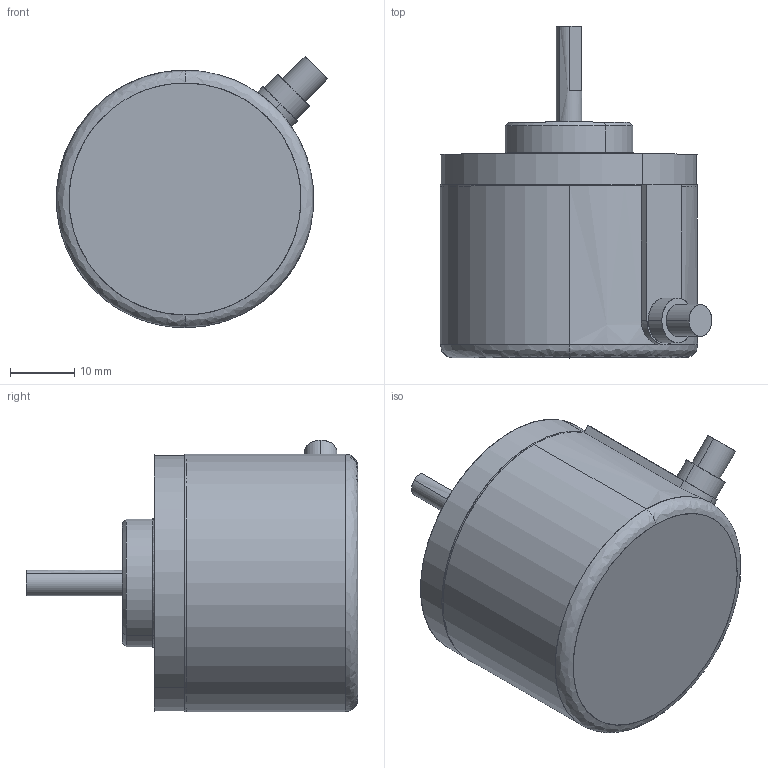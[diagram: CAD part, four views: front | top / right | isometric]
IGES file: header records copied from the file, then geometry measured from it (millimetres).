
Start section: SolidWorks IGES file using analytic representation for surfaces
Global section: file name: O:\12-Produktmanagement\12-1 Megatron\12-1-7 Drehgeber\Produkte\03 Inkremental größer 25mm\MOL40\06- Photo-Zeichnung-Datenblatt\Zeichnungen\SolidWorks\MOL40.IGS; native system: SolidWorks 2012; preprocessor: SolidWorks 2012; author: AlessandroC; date: 120705.120014; units: millimetre
Bounding box: 42.37 x 51.8 x 42.37 mm (x, y, z)
Surface area: 10017.3 mm2 (no closed solid volume)
Topology: 0 solids, 0 shells, 77 faces, 1415 edges, 1415 vertices
Faces by surface type: revolution 47, bspline 30
